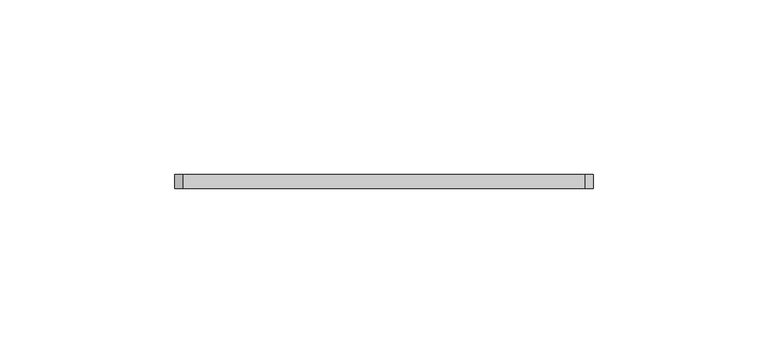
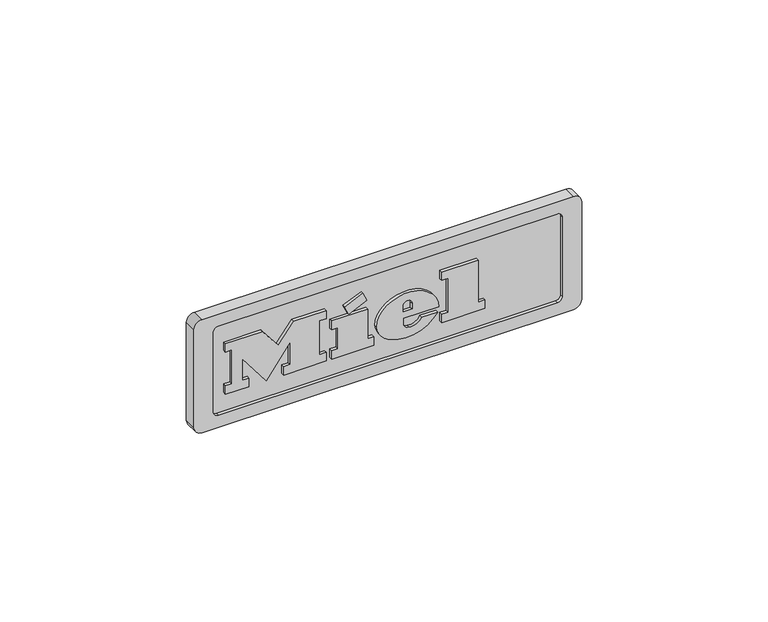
"""IFC4 building model written with IfcOpenShell, lengths in millimetres: proxy geometry, 10902350_USA_HR1622-2_EDST-CLST : 25162271_USA_10902350_HR1622-2_EDST-CLST."""

from ifc_helpers import new_model, si_unit, point, frame, origin, place, context, project, spatial, polyline, circle_curve, ellipse_curve, trimmed, outline, extrude, source, transform, mapped, element, save
from ifc_brep_helpers import plane_surface, cylinder_surface, revolved_surface, extruded_surface, advanced_brep


def specialty_equipment_edddaffb(model_context):
    return source(origin(), model_context, "Body", "SolidModel", [
        advanced_brep(
        [(4.7445, -674.0, 175.9105), (4.7445, -674.0, 177.577), (15.783, -674.0, 177.577), (-3.423, -674.0, 177.577), (1.1145, -674.0, 172.0), (15.5025, -674.0, 175.9105), (10.5195, -674.0, 175.9105), (6.5925, -674.0, 174.0625), (4.7445, -674.0, 179.689), (4.7445, -674.0, 181.4875), (7.566, -674.0, 181.4875), (7.566, -674.0, 179.689), (4.7445, -673.0, 175.9105), (6.5925, -673.0, 174.0625), (10.5195, -673.0, 175.9105), (15.5025, -673.0, 175.9105), (1.1145, -673.0, 172.0), (-3.423, -673.0, 177.577), (15.783, -673.0, 177.577), (4.7445, -673.0, 177.577), (4.7445, -673.0, 179.689), (7.566, -673.0, 179.689), (7.566, -673.0, 181.4875), (4.7445, -673.0, 181.4875)],
        [
            (0, 1),
            (1, 2),
            (2, 3, ellipse_curve(frame((6.18, -674.0, 177.577), z_axis=(0.0, -1.0, 0.0), x_axis=(-1.0, 0.0, 0.0)), 9.603, 7.9365)),
            (3, 4, circle_curve(frame((2.96259, -674.0, 178.138), z_axis=(0.0, -1.0, 0.0), x_axis=(0.0, 0.0, -1.0)), 6.4101857)),
            (4, 5, circle_curve(frame((5.9877618, -674.0, 182.494), z_axis=(0.0, -1.0, 0.0), x_axis=(0.0, 0.0, -1.0)), 11.5703378)),
            (5, 6),
            (6, 7, circle_curve(frame((7.3990588, -674.0, 177.445), z_axis=(0.0, 1.0, 0.0), x_axis=(0.0, 0.0, -1.0)), 3.4773328)),
            (7, 0, circle_curve(frame((6.5925, -674.0, 175.9105), z_axis=(0.0, 1.0, 0.0), x_axis=(0.0, 0.0, -1.0)), 1.848)),
            (8, 9),
            (9, 10, circle_curve(frame((6.15525, -674.0, 181.4875), z_axis=(0.0, 1.0, 0.0), x_axis=(0.0, 0.0, -1.0)), 1.41075)),
            (10, 11),
            (11, 8),
            (12, 13, circle_curve(frame((6.5925, -673.0, 175.9105), z_axis=(0.0, -1.0, 0.0), x_axis=(0.0, 0.0, -1.0)), 1.848)),
            (13, 14, circle_curve(frame((7.3990588, -673.0, 177.445), z_axis=(0.0, -1.0, 0.0), x_axis=(0.0, 0.0, -1.0)), 3.4773328)),
            (14, 15),
            (15, 16, circle_curve(frame((5.9877618, -673.0, 182.494), z_axis=(0.0, 1.0, 0.0), x_axis=(0.0, 0.0, -1.0)), 11.5703378)),
            (16, 17, circle_curve(frame((2.96259, -673.0, 178.138), z_axis=(0.0, 1.0, 0.0), x_axis=(0.0, 0.0, -1.0)), 6.4101857)),
            (17, 18, ellipse_curve(frame((6.18, -673.0, 177.577), z_axis=(0.0, 1.0, 0.0), x_axis=(-1.0, 0.0, 0.0)), 9.603, 7.9365)),
            (18, 19),
            (19, 12),
            (20, 21),
            (21, 22),
            (22, 23, circle_curve(frame((6.15525, -673.0, 181.4875), z_axis=(0.0, -1.0, 0.0), x_axis=(0.0, 0.0, -1.0)), 1.41075)),
            (23, 20),
            (0, 12),
            (19, 1),
            (18, 2),
            (5, 15),
            (14, 6),
            (17, 3),
            (13, 7),
            (16, 4),
            (8, 20),
            (23, 9),
            (22, 10),
            (21, 11),
        ],
        [
            plane_surface(frame((4.7445, -674.0, 177.577), z_axis=(0.0, -1.0, 0.0), x_axis=(0.0, 0.0, 1.0))),
            plane_surface(frame((4.7445, -673.0, 177.577), z_axis=(0.0, 1.0, 0.0), x_axis=(0.0, 0.0, -1.0))),
            plane_surface(frame((4.7445, -674.0, 175.9105), z_axis=(1.0, 0.0, 0.0), x_axis=(0.0, 1.0, 0.0))),
            plane_surface(frame((4.7445, -674.0, 177.577), z_axis=(0.0, 0.0, -1.0), x_axis=(0.0, 1.0, 0.0))),
            plane_surface(frame((15.5025, -674.0, 175.9105), z_axis=(0.0, 0.0, 1.0), x_axis=(0.0, 1.0, 0.0))),
            extruded_surface(trimmed(ellipse_curve(frame((6.18, -672.0, 177.577), z_axis=(0.0, -1.0, 0.0), x_axis=(-1.0, 0.0, 0.0)), 9.603, 7.9365), [point((15.783, -672.0, 177.577))], [point((-3.423, -672.0, 177.577))], True, "CARTESIAN"), (0.0, -1.0, 0.0), 1.0),
            revolved_surface(polyline([(7.3990588, -673.0, 173.9676672), (7.3990588, -674.0, 173.9676672)]), (7.3990588, -673.0, 177.445), (0.0, 1.0, 0.0)),
            revolved_surface(polyline([(6.5925, -673.0, 174.0625), (6.5925, -674.0, 174.0625)]), (6.5925, -673.0, 175.9105), (0.0, 1.0, 0.0)),
            cylinder_surface(frame((2.96259, -673.0, 178.138), z_axis=(0.0, -1.0, 0.0), x_axis=(0.0, 0.0, -1.0)), 6.4101857),
            cylinder_surface(frame((5.9877618, -673.0, 182.494), z_axis=(0.0, -1.0, 0.0), x_axis=(0.0, 0.0, -1.0)), 11.5703378),
            plane_surface(frame((4.7445, -674.0, 179.689), z_axis=(1.0, 0.0, 0.0), x_axis=(0.0, 1.0, 0.0))),
            revolved_surface(polyline([(6.15525, -673.0, 180.07675), (6.15525, -674.0, 180.07675)]), (6.15525, -673.0, 181.4875), (0.0, 1.0, 0.0)),
            plane_surface(frame((7.566, -674.0, 181.4875), z_axis=(-1.0, 0.0, 0.0), x_axis=(0.0, 1.0, 0.0))),
            plane_surface(frame((7.566, -674.0, 179.689), z_axis=(0.0, 0.0, 1.0), x_axis=(0.0, 1.0, 0.0))),
        ],
        [
            (0, [[1, 2, 3, 4, 5, 6, 7, 8], [9, 10, 11, 12]]),
            (1, [[13, 14, 15, 16, 17, 18, 19, 20], [21, 22, 23, 24]]),
            (2, [[-1, 25, -20, 26]]),
            (3, [[-2, -26, -19, 27]]),
            (4, [[-6, 28, -15, 29]]),
            (5, [[-3, -27, -18, 30]]),
            (6, [[-7, -29, -14, 31]]),
            (7, [[-8, -31, -13, -25]]),
            (8, [[-4, -30, -17, 32]]),
            (9, [[-5, -32, -16, -28]]),
            (10, [[-9, 33, -24, 34]]),
            (11, [[-10, -34, -23, 35]]),
            (12, [[-11, -35, -22, 36]]),
            (13, [[-12, -36, -21, -33]]),
        ],
    ),
        extrude(outline(polyline([(187.5265, -13.29), (184.8535, -12.036), (187.4605, -6.4425), (190.1335, -7.68), (187.5265, -13.29)])), frame((0.0, -674.0, 0.0), z_axis=(0.0, 1.0, 0.0), x_axis=(0.0, 0.0, 1.0)), (0.0, 0.0, 1.0), 1.0),
        extrude(outline(polyline([(184.4905, -17.3655), (181.537, -17.3655), (181.537, -15.402), (174.772, -15.402), (174.772, -17.3655), (172.0, -17.3655), (172.0, -4.347), (174.772, -4.347), (174.772, -6.261), (184.4905, -6.261), (184.4905, -17.3655)])), frame((0.0, -674.0, 0.0), z_axis=(0.0, 1.0, 0.0), x_axis=(0.0, 0.0, 1.0)), (0.0, 0.0, 1.0), 1.0),
        extrude(outline(polyline([(185.8105, 16.707), (185.8105, 18.687), (174.772, 18.687), (174.772, 16.707), (172.0, 16.707), (172.0, 30.0885), (174.772, 30.0885), (174.772, 28.059), (188.5, 28.059), (188.5, 16.707), (185.8105, 16.707)])), frame((0.0, -674.0, 0.0), z_axis=(0.0, 1.0, 0.0), x_axis=(0.0, 0.0, 1.0)), (0.0, 0.0, 1.0), 1.0),
        extrude(outline(polyline([(185.8105, -50.25), (185.8105, -48.2535), (174.772, -48.2535), (174.772, -50.25), (172.0, -50.25), (172.0, -42.99), (174.772, -42.99), (174.772, -44.97), (181.7366247, -44.97), (172.0, -37.5945), (182.1277223, -30.186), (174.772, -30.186), (174.772, -32.2155), (172.0, -32.2155), (172.0, -19.0485), (174.772, -19.0485), (174.772, -21.144), (185.8105, -21.144), (185.8105, -19.0485), (188.5, -19.0485), (188.5, -29.097), (182.3125, -33.915), (188.5, -38.7495), (188.5, -50.25), (185.8105, -50.25)])), frame((0.0, -674.0, 0.0), z_axis=(0.0, 1.0, 0.0), x_axis=(0.0, 0.0, 1.0)), (0.0, 0.0, 1.0), 1.0),
        advanced_brep(
        [(57.5, -674.0, 199.0), (-57.5, -674.0, 199.0), (-60.0, -674.0, 196.5), (-60.0, -674.0, 164.5), (-57.5, -674.0, 162.0), (57.5, -674.0, 162.0), (60.0, -674.0, 164.5), (60.0, -674.0, 196.5), (-52.5, -674.0, 195.0), (52.5, -674.0, 195.0), (54.0, -674.0, 193.5), (54.0, -674.0, 167.5), (52.5, -674.0, 166.0), (-52.5, -674.0, 166.0), (-54.0, -674.0, 167.5), (-54.0, -674.0, 193.5), (57.5, -670.0, 199.0), (60.0, -670.0, 196.5), (60.0, -670.0, 164.5), (57.5, -670.0, 162.0), (-57.5, -670.0, 162.0), (-60.0, -670.0, 164.5), (-60.0, -670.0, 196.5), (-57.5, -670.0, 199.0), (52.5, -673.0, 195.0), (-52.5, -673.0, 195.0), (-54.0, -673.0, 193.5), (-54.0, -673.0, 167.5), (-52.5, -673.0, 166.0), (52.5, -673.0, 166.0), (54.0, -673.0, 167.5), (54.0, -673.0, 193.5)],
        [
            (0, 1),
            (1, 2, circle_curve(frame((-57.5, -674.0, 196.5), z_axis=(0.0, -1.0, 0.0), x_axis=(-1.0, 0.0, 0.0)), 2.5)),
            (2, 3),
            (3, 4, circle_curve(frame((-57.5, -674.0, 164.5), z_axis=(0.0, -1.0, 0.0), x_axis=(-1.0, 0.0, 0.0)), 2.5)),
            (4, 5),
            (5, 6, circle_curve(frame((57.5, -674.0, 164.5), z_axis=(0.0, -1.0, 0.0), x_axis=(-1.0, 0.0, 0.0)), 2.5)),
            (6, 7),
            (7, 0, circle_curve(frame((57.5, -674.0, 196.5), z_axis=(0.0, -1.0, 0.0), x_axis=(-1.0, 0.0, 0.0)), 2.5)),
            (8, 9),
            (9, 10, circle_curve(frame((52.5, -674.0, 193.5), z_axis=(0.0, 1.0, 0.0), x_axis=(1.0, 0.0, 0.0)), 1.5)),
            (10, 11),
            (11, 12, circle_curve(frame((52.5, -674.0, 167.5), z_axis=(0.0, 1.0, 0.0), x_axis=(1.0, 0.0, 0.0)), 1.5)),
            (12, 13),
            (13, 14, circle_curve(frame((-52.5, -674.0, 167.5), z_axis=(0.0, 1.0, 0.0), x_axis=(1.0, 0.0, 0.0)), 1.5)),
            (14, 15),
            (15, 8, circle_curve(frame((-52.5, -674.0, 193.5), z_axis=(0.0, 1.0, 0.0), x_axis=(1.0, 0.0, 0.0)), 1.5)),
            (16, 17, circle_curve(frame((57.5, -670.0, 196.5), z_axis=(0.0, 1.0, 0.0), x_axis=(-1.0, 0.0, 0.0)), 2.5)),
            (17, 18),
            (18, 19, circle_curve(frame((57.5, -670.0, 164.5), z_axis=(0.0, 1.0, 0.0), x_axis=(-1.0, 0.0, 0.0)), 2.5)),
            (19, 20),
            (20, 21, circle_curve(frame((-57.5, -670.0, 164.5), z_axis=(0.0, 1.0, 0.0), x_axis=(-1.0, 0.0, 0.0)), 2.5)),
            (21, 22),
            (22, 23, circle_curve(frame((-57.5, -670.0, 196.5), z_axis=(0.0, 1.0, 0.0), x_axis=(-1.0, 0.0, 0.0)), 2.5)),
            (23, 16),
            (0, 16),
            (23, 1),
            (22, 2),
            (21, 3),
            (20, 4),
            (19, 5),
            (18, 6),
            (17, 7),
            (24, 25),
            (25, 26, circle_curve(frame((-52.5, -673.0, 193.5), z_axis=(0.0, -1.0, 0.0), x_axis=(1.0, 0.0, 0.0)), 1.5)),
            (26, 27),
            (27, 28, circle_curve(frame((-52.5, -673.0, 167.5), z_axis=(0.0, -1.0, 0.0), x_axis=(1.0, 0.0, 0.0)), 1.5)),
            (28, 29),
            (29, 30, circle_curve(frame((52.5, -673.0, 167.5), z_axis=(0.0, -1.0, 0.0), x_axis=(1.0, 0.0, 0.0)), 1.5)),
            (30, 31),
            (31, 24, circle_curve(frame((52.5, -673.0, 193.5), z_axis=(0.0, -1.0, 0.0), x_axis=(1.0, 0.0, 0.0)), 1.5)),
            (24, 9),
            (8, 25),
            (15, 26),
            (14, 27),
            (13, 28),
            (12, 29),
            (11, 30),
            (10, 31),
        ],
        [
            plane_surface(frame((55.0, -674.0, 196.5), z_axis=(0.0, -1.0, 0.0), x_axis=(0.0, 0.0, -1.0))),
            plane_surface(frame((55.0, -670.0, 196.5), z_axis=(0.0, 1.0, 0.0), x_axis=(0.0, 0.0, 1.0))),
            plane_surface(frame((-57.5, -670.0, 199.0), z_axis=(0.0, 0.0, 1.0), x_axis=(0.0, -1.0, 0.0))),
            cylinder_surface(frame((-57.5, -674.0, 196.5), z_axis=(0.0, 1.0, 0.0), x_axis=(-1.0, 0.0, 0.0)), 2.5),
            plane_surface(frame((-60.0, -670.0, 164.5), z_axis=(-1.0, 0.0, 0.0), x_axis=(0.0, -1.0, 0.0))),
            cylinder_surface(frame((-57.5, -674.0, 164.5), z_axis=(0.0, 1.0, 0.0), x_axis=(-1.0, 0.0, 0.0)), 2.5),
            plane_surface(frame((57.5, -670.0, 162.0), z_axis=(0.0, 0.0, -1.0), x_axis=(0.0, -1.0, 0.0))),
            cylinder_surface(frame((57.5, -674.0, 164.5), z_axis=(0.0, 1.0, 0.0), x_axis=(-1.0, 0.0, 0.0)), 2.5),
            plane_surface(frame((60.0, -670.0, 196.5), z_axis=(1.0, 0.0, 0.0), x_axis=(0.0, -1.0, 0.0))),
            cylinder_surface(frame((57.5, -674.0, 196.5), z_axis=(0.0, 1.0, 0.0), x_axis=(-1.0, 0.0, 0.0)), 2.5),
            plane_surface(frame((-52.5, -673.0, 195.0), z_axis=(0.0, -1.0, 0.0), x_axis=(1.0, 0.0, 0.0))),
            plane_surface(frame((52.5, -674.0, 195.0), z_axis=(0.0, 0.0, -1.0), x_axis=(0.0, 1.0, 0.0))),
            revolved_surface(polyline([(-51.0, -674.0, 193.5), (-51.0, -673.0, 193.5)]), (-52.5, -673.0, 193.5), (0.0, -1.0, 0.0)),
            plane_surface(frame((-54.0, -674.0, 193.5), z_axis=(1.0, 0.0, 0.0), x_axis=(0.0, 1.0, 0.0))),
            revolved_surface(polyline([(-51.0, -674.0, 167.5), (-51.0, -673.0, 167.5)]), (-52.5, -673.0, 167.5), (0.0, -1.0, 0.0)),
            plane_surface(frame((-52.5, -674.0, 166.0), z_axis=(0.0, 0.0, 1.0), x_axis=(0.0, 1.0, 0.0))),
            revolved_surface(polyline([(54.0, -674.0, 167.5), (54.0, -673.0, 167.5)]), (52.5, -673.0, 167.5), (0.0, -1.0, 0.0)),
            plane_surface(frame((54.0, -674.0, 167.5), z_axis=(-1.0, 0.0, 0.0), x_axis=(0.0, 1.0, 0.0))),
            revolved_surface(polyline([(54.0, -674.0, 193.5), (54.0, -673.0, 193.5)]), (52.5, -673.0, 193.5), (0.0, -1.0, 0.0)),
        ],
        [
            (0, [[1, 2, 3, 4, 5, 6, 7, 8], [9, 10, 11, 12, 13, 14, 15, 16]]),
            (1, [[17, 18, 19, 20, 21, 22, 23, 24]]),
            (2, [[-1, 25, -24, 26]]),
            (3, [[-2, -26, -23, 27]]),
            (4, [[-3, -27, -22, 28]]),
            (5, [[-4, -28, -21, 29]]),
            (6, [[-5, -29, -20, 30]]),
            (7, [[-6, -30, -19, 31]]),
            (8, [[-7, -31, -18, 32]]),
            (9, [[-8, -32, -17, -25]]),
            (10, [[33, 34, 35, 36, 37, 38, 39, 40]]),
            (11, [[-33, 41, -9, 42]]),
            (12, [[-34, -42, -16, 43]]),
            (13, [[-35, -43, -15, 44]]),
            (14, [[-36, -44, -14, 45]]),
            (15, [[-37, -45, -13, 46]]),
            (16, [[-38, -46, -12, 47]]),
            (17, [[-39, -47, -11, 48]]),
            (18, [[-40, -48, -10, -41]]),
        ],
    ),
    ])


if __name__ == "__main__":
    model = new_model("IFC4")
    model_context = context("Model", 3, world=origin())
    ifc_project = project(units=[si_unit("LENGTHUNIT", "METRE", prefix="MILLI")], contexts=[model_context])
    site = spatial("IfcSite", under=ifc_project)
    building = spatial("IfcBuilding", under=site)
    placement = place(None, origin())
    specialty_equipment_shape = specialty_equipment_edddaffb(model_context)
    element("IfcBuildingElementProxy", 1, Name="10902350_USA_HR1622-2_EDST-CLST : 25162271_USA_10902350_HR1622-2_EDST-CLST", ObjectType="10902350_USA_HR1622-2_EDST-CLST : 25162271_USA_10902350_HR1622-2_EDST-CLST", at=placement, inside=building, context=model_context, shape_type="MappedRepresentation", body=[
        mapped(specialty_equipment_shape, transform((0.0, 0.0, 0.0), x_axis=(1.0, 0.0, 0.0), y_axis=(0.0, 1.0, 0.0), z_axis=(0.0, 0.0, 1.0))),
    ])
    save(model, "model.ifc")
